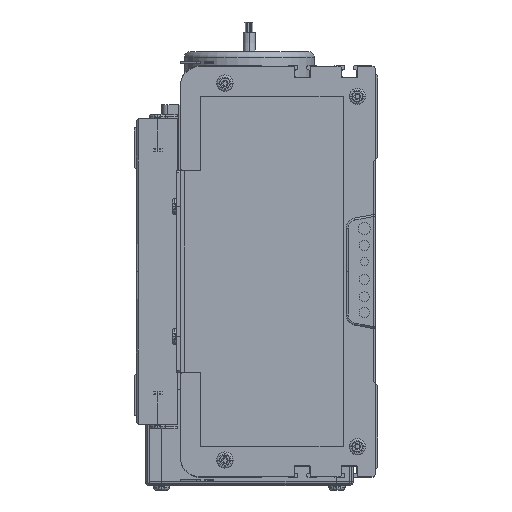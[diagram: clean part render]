
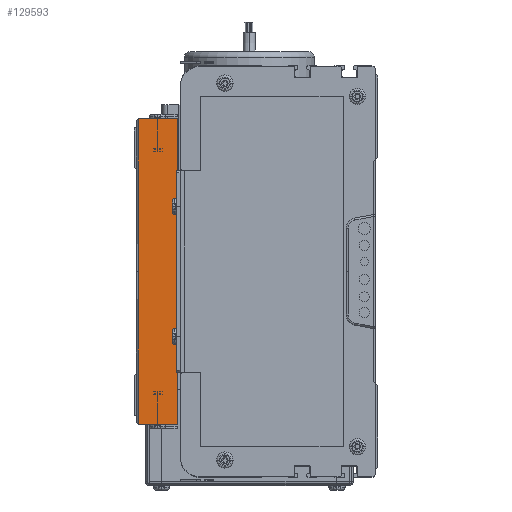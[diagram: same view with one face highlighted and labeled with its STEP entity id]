
A CAD part, left-side view. The second image highlights one B-rep face of the part: STEP entity #129593.
In plain terms, the highlighted planar face has unit normal (-1, 0, 0).
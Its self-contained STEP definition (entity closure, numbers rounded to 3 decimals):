
#8559 = VECTOR ( 'NONE', #8928, 1000. ) ;
#8889 = CARTESIAN_POINT ( 'NONE',  ( 0., 20., 75. ) ) ;
#8928 = DIRECTION ( 'NONE',  ( 0., -1., 0. ) ) ;
#8949 = LINE ( 'NONE', #8889, #8559 ) ;
#9026 = CARTESIAN_POINT ( 'NONE',  ( 0., 0., 75. ) ) ;
#9248 = CARTESIAN_POINT ( 'NONE',  ( 0., 0., -75. ) ) ;
#97306 = DIRECTION ( 'NONE',  ( 0., 0., 1. ) ) ;
#97308 = VECTOR ( 'NONE', #97306, 1000. ) ;
#97310 = CARTESIAN_POINT ( 'NONE',  ( 0., 0., 0. ) ) ;
#97311 = LINE ( 'NONE', #97310, #97308 ) ;
#97670 = CARTESIAN_POINT ( 'NONE',  ( 0., 19., 75. ) ) ;
#102669 = DIRECTION ( 'NONE',  ( 0., -1., 0. ) ) ;
#102670 = VECTOR ( 'NONE', #102669, 1000. ) ;
#102671 = CARTESIAN_POINT ( 'NONE',  ( 0., 20., -75. ) ) ;
#102672 = LINE ( 'NONE', #102671, #102670 ) ;
#105560 = CARTESIAN_POINT ( 'NONE',  ( 0., 20., 0. ) ) ;
#105746 = FACE_OUTER_BOUND ( 'NONE', #129589, .T. ) ;
#105921 = PLANE ( 'NONE',  #105932 ) ;
#105932 = AXIS2_PLACEMENT_3D ( 'NONE', #105560, #105982, #105979 ) ;
#105979 = DIRECTION ( 'NONE',  ( 0., 0., -1. ) ) ;
#105982 = DIRECTION ( 'NONE',  ( 1., 0., 0. ) ) ;
#105993 = CARTESIAN_POINT ( 'NONE',  ( 0., 19., 0. ) ) ;
#106542 = CARTESIAN_POINT ( 'NONE',  ( 0., 19., -75. ) ) ;
#106767 = CARTESIAN_POINT ( 'NONE',  ( 0., 19., 0. ) ) ;
#106768 = LINE ( 'NONE', #106767, #106962 ) ;
#106961 = DIRECTION ( 'NONE',  ( 0., 0., -1. ) ) ;
#106962 = VECTOR ( 'NONE', #106961, 1000. ) ;
#108534 = LINE ( 'NONE', #108647, #108646 ) ;
#108644 = DIRECTION ( 'NONE',  ( 0., 0., -1. ) ) ;
#108646 = VECTOR ( 'NONE', #108644, 1000. ) ;
#108647 = CARTESIAN_POINT ( 'NONE',  ( 0., 19., 0. ) ) ;
#128441 = EDGE_CURVE ( 'NONE', #128756, #128451, #8949, .T. ) ;
#128451 = VERTEX_POINT ( 'NONE', #9026 ) ;
#128504 = VERTEX_POINT ( 'NONE', #9248 ) ;
#128665 = EDGE_CURVE ( 'NONE', #128504, #128451, #97311, .T. ) ;
#128756 = VERTEX_POINT ( 'NONE', #97670 ) ;
#129537 = ORIENTED_EDGE ( 'NONE', *, *, #129539, .T. ) ;
#129539 = EDGE_CURVE ( 'NONE', #129622, #128504, #102672, .T. ) ;
#129589 = EDGE_LOOP ( 'NONE', ( #129595, #129848, #129846, #129537, #129851 ) ) ;
#129593 = ADVANCED_FACE ( 'NONE', ( #105746 ), #105921, .F. ) ;
#129595 = ORIENTED_EDGE ( 'NONE', *, *, #128441, .F. ) ;
#129597 = VERTEX_POINT ( 'NONE', #105993 ) ;
#129622 = VERTEX_POINT ( 'NONE', #106542 ) ;
#129637 = EDGE_CURVE ( 'NONE', #128756, #129597, #106768, .T. ) ;
#129846 = ORIENTED_EDGE ( 'NONE', *, *, #129849, .T. ) ;
#129848 = ORIENTED_EDGE ( 'NONE', *, *, #129637, .T. ) ;
#129849 = EDGE_CURVE ( 'NONE', #129597, #129622, #108534, .T. ) ;
#129851 = ORIENTED_EDGE ( 'NONE', *, *, #128665, .T. ) ;
